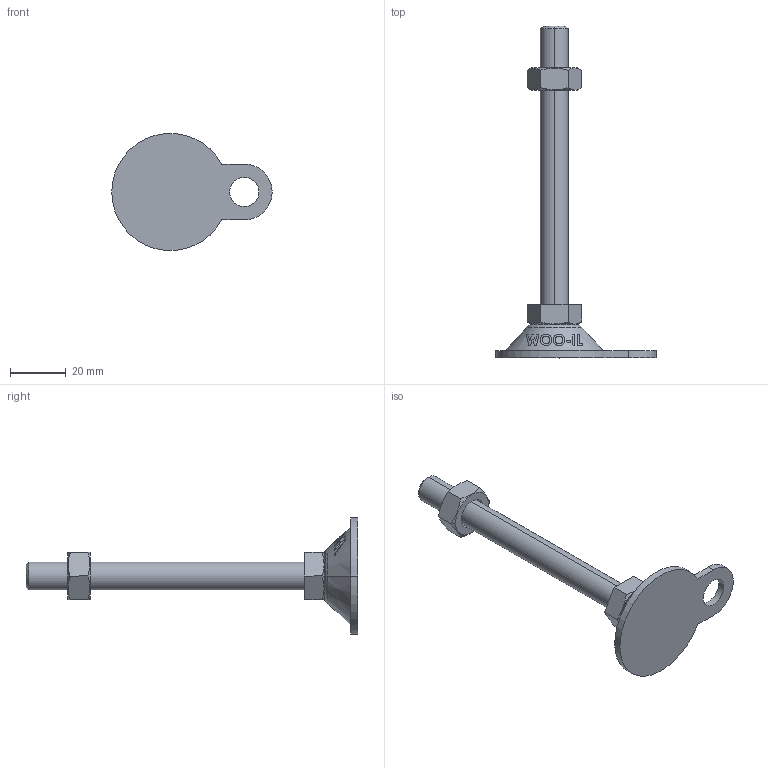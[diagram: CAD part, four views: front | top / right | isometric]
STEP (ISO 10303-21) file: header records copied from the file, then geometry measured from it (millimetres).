
FILE_DESCRIPTION (( 'STEP AP214' ), '1' );
FILE_NAME ('ABL42-M10-100.step', '2021-02-05T04:17:42', ( '' ), ( '' ), 'SwSTEP 2.0', 'SolidWorks 2019', '' );
FILE_SCHEMA (( 'AUTOMOTIVE_DESIGN' ));
Length unit declared in the file: millimetre
Products named in the file (2): ABL42-M10-100
Bounding box: 57.5 x 119 x 41.86 mm (x, y, z)
Volume: 20372 mm3; surface area: 8756.9 mm2
Topology: 2 solids, 2 shells, 128 faces, 325 edges, 212 vertices
Faces by surface type: plane 48, cylinder 38, cone 22, bspline 18, torus 2
Entity records: 5503 total; most frequent: CARTESIAN_POINT 2617, ORIENTED_EDGE 650, DIRECTION 473, EDGE_CURVE 325, VERTEX_POINT 212, AXIS2_PLACEMENT_3D 176, EDGE_LOOP 143, B_SPLINE_CURVE_WITH_KNOTS 140
